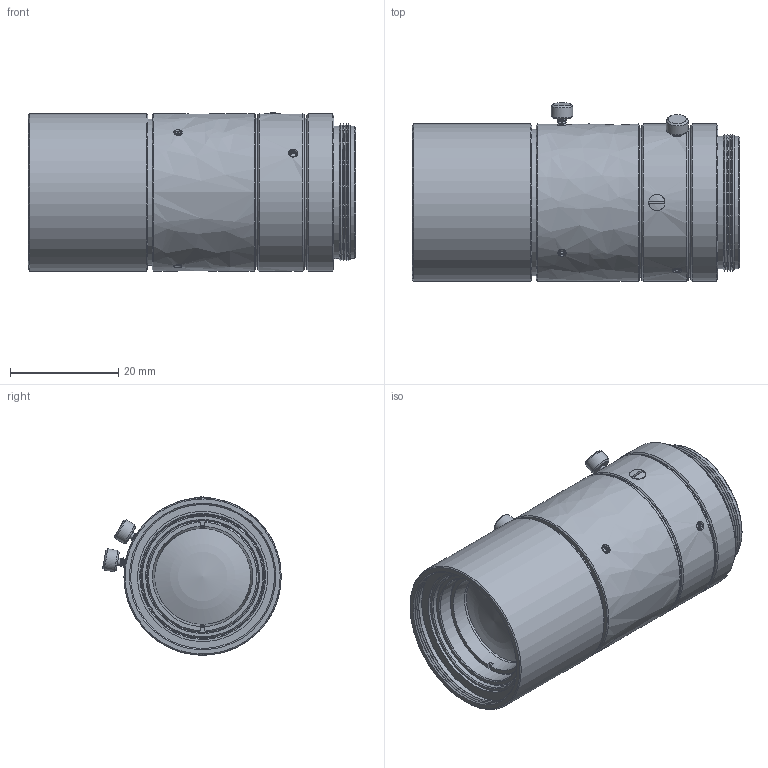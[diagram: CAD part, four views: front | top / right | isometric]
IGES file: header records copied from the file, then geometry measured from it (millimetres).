
Global section: file name: 153-13658_Objektiv LOC-50-HD-27x0,5; native system: Autodesk Inventor 2018; preprocessor: unknown; author: S.S.; date: 20200326.110113; units: millimetre
Bounding box: 60.32 x 32.92 x 29.17 mm (x, y, z)
Volume: 29105.5 mm3; surface area: 14348.7 mm2
Topology: 8 solids, 13 shells, 332 faces, 914 edges, 627 vertices
Faces by surface type: bspline 332
